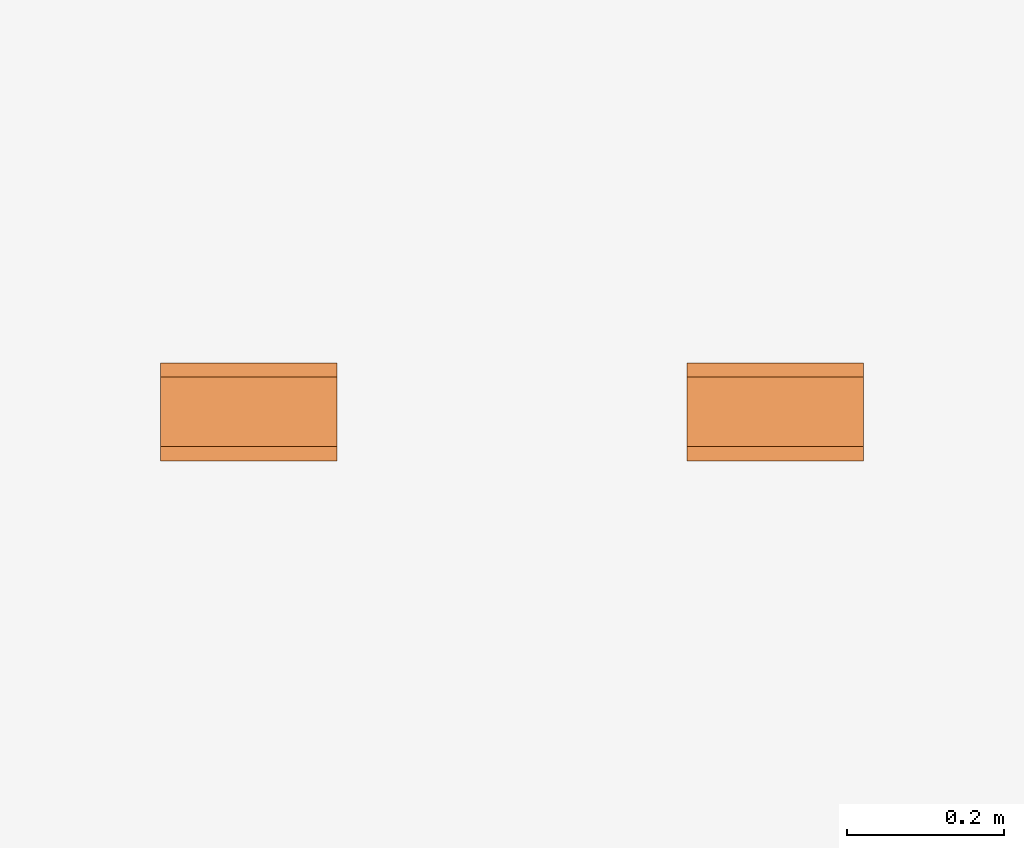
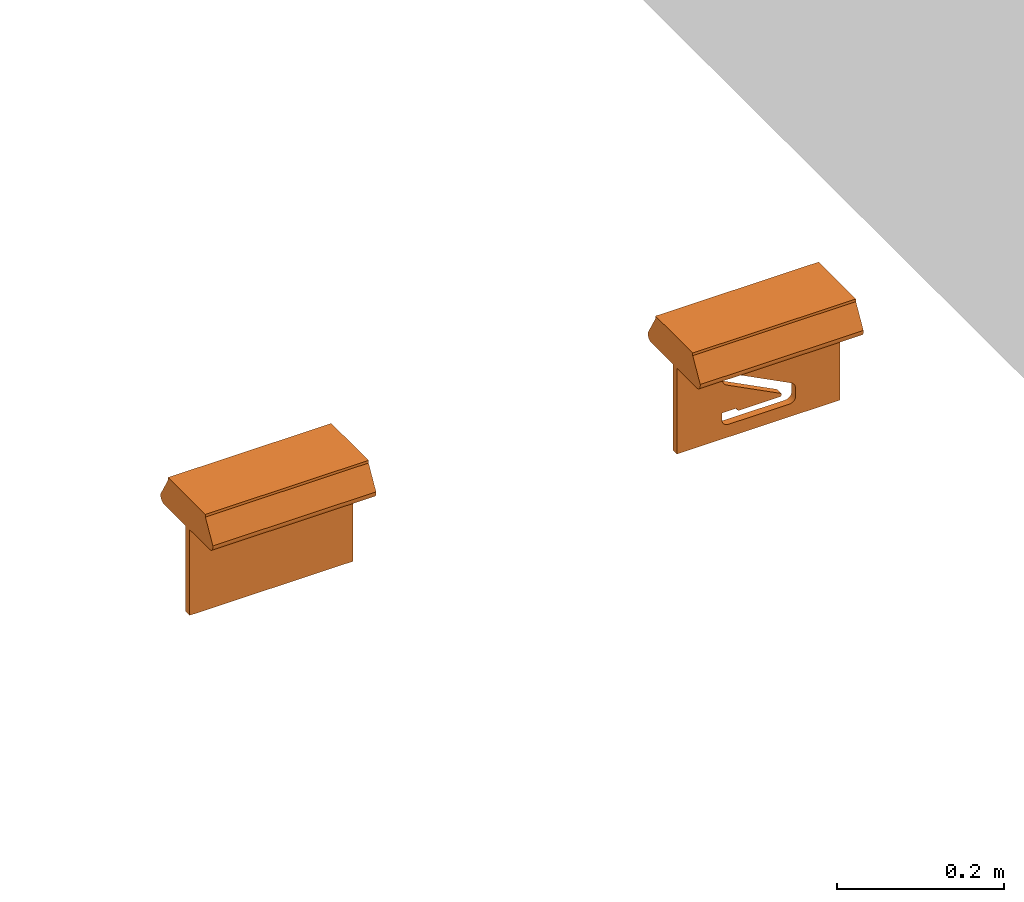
# One storey, part 58 of 197: 2 proxies.
"""IFC2X3 building model written with IfcOpenShell, lengths in metres."""

from ifc_helpers import new_model, entity, si_unit, converted_unit, direction, frame, frame_2d, origin, place, context, subcontext, project, spatial, polyline, circle_curve, parameter, trimmed, segment, composite_curve, circle, outline, extrude, source, transform, mapped, material, material_list, type_object, type_shapes, element, save


model = new_model("IFC2X3")

# Units and contexts
model_context = context("Model", 3, precision=1e-05, world=origin(), true_north=direction((6.123031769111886e-17, 1.0)))
body_context = subcontext(model_context, "Body", "Model", "MODEL_VIEW")
ifc_project = project(units=[si_unit("LENGTHUNIT", "METRE"), converted_unit("PLANEANGLEUNIT", "DEGREE", entity("IfcPlaneAngleMeasure", 0.017453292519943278), si_unit("PLANEANGLEUNIT", "RADIAN"), dimensions=[0, 0, 0, 0, 0, 0, 0]), si_unit("AREAUNIT", "SQUARE_METRE")], contexts=[model_context])

# Site, building, storey
site_placement = place(None, origin())
site = spatial("IfcSite", under=ifc_project, at=site_placement, Name="Default", CompositionType="ELEMENT")
building_placement = place(site_placement, origin())
building = spatial("IfcBuilding", under=site, at=building_placement, CompositionType="ELEMENT")
storey_placement = place(building_placement, origin())
storey = spatial("IfcBuildingStorey", under=building, at=storey_placement, Name="Niveau 0", CompositionType="ELEMENT", Elevation=0.0)

# Proxies
ifc_material_1 = material(Name="BETCE-ENVELOPPE-BLANC")
ifc_material_2 = material(Name="BETCE-ETIQUETTE-VERT 0-193-0")
ifc_material_3 = material(Name="BETCE-VITRE BAES-BLEU")
ifc_material_list_1 = material_list([ifc_material_1, ifc_material_2, ifc_material_3])
building_element_proxy_type_1 = type_object("IfcBuildingElementProxyType", Name="Eclairage de sécurité saillie étanche plafond:GAUCHE", PredefinedType="NOTDEFINED", material=ifc_material_list_1)
shared_shape_1 = source(origin(), body_context, "Body", "SweptSolid", [
    extrude(outline(polyline([(-0.02895906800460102, -0.033302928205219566), (0.012231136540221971, -0.033302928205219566), (0.029966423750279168, -0.012907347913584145), (0.003103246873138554, -0.012907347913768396), (0.03240502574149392, 0.02078969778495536), (0.016088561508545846, 0.03497792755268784), (-0.013213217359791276, 0.0012808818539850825), (-0.016943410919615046, 0.027883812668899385), (-0.03467869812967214, 0.0074882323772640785), (-0.02895906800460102, -0.033302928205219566)])), frame((-0.045353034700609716, -0.004999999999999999, -0.10750000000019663), z_axis=(0.0, 1.0, 0.0), x_axis=(0.6561787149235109, 0.0, 0.7546055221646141)), (0.0, 0.0, 1.0), 0.009999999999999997),
    extrude(outline(composite_curve([segment(trimmed(circle_curve(frame_2d((-0.022195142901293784, -0.014780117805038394), x_axis=(-0.7432901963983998, 0.6689691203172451)), 0.0006000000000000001), [parameter(89.9999999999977)], [parameter(173.97510158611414)], True, "PARAMETER"), True, "CONTINUOUS"), segment(polyline([(-0.021793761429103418, -0.015226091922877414), (-0.011129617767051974, -0.005628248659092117)]), True, "CONTINUOUS"), segment(trimmed(circle_curve(frame_2d((-0.0017573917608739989, -0.016041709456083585), x_axis=(-0.7432901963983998, 0.6689691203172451)), 0.014009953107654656), [parameter(330.5560758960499)], [parameter(353.97510158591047)], True, "PARAMETER"), False, "CONTINUOUS"), segment(polyline([(-0.00621870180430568, -0.002761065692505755), (0.005775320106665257, 0.0017351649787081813)]), True, "CONTINUOUS"), segment(polyline([(0.005775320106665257, 0.0017351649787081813), (-0.0004311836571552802, 0.007321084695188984)]), True, "CONTINUOUS"), segment(polyline([(-0.0004311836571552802, 0.007321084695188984), (-0.011567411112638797, 0.004442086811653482)]), True, "CONTINUOUS"), segment(trimmed(circle_curve(frame_2d((-0.012005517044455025, 0.00712627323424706), x_axis=(-0.7432901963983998, 0.6689691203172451)), 0.0027197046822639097), [parameter(57.327733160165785)], [parameter(141.25747905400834)], True, "PARAMETER"), False, "CONTINUOUS"), segment(trimmed(circle_curve(frame_2d((-0.012005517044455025, 0.00712627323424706), x_axis=(-0.7432901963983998, 0.6689691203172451)), 0.0027197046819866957), [parameter(333.39798722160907)], [parameter(57.32773315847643)], True, "PARAMETER"), False, "CONTINUOUS"), segment(polyline([(-0.012998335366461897, 0.00965828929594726), (-0.00021807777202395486, 0.012998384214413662)]), True, "CONTINUOUS"), segment(trimmed(circle_curve(frame_2d((0.00030725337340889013, 0.007536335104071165), x_axis=(-0.7432901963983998, 0.6689691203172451)), 0.0054872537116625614), [parameter(271.8824185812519)], [parameter(317.4812693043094)], True, "PARAMETER"), False, "CONTINUOUS"), segment(polyline([(0.0038420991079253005, 0.011733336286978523), (0.014901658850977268, 0.0017796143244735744)]), True, "CONTINUOUS"), segment(trimmed(circle_curve(frame_2d((0.006209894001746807, -0.007877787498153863), x_axis=(-0.7432901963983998, 0.6689691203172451)), 0.012992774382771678), [parameter(223.55500193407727)], [parameter(269.9999999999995)], True, "PARAMETER"), False, "CONTINUOUS"), segment(polyline([(0.019197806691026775, -0.00752238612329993), (0.017787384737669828, -0.01891582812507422)]), True, "CONTINUOUS"), segment(polyline([(0.017787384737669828, -0.01891582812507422), (0.022127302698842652, -0.022821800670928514)]), True, "CONTINUOUS"), segment(polyline([(0.022127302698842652, -0.022821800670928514), (0.044393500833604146, 0.001918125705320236)]), True, "CONTINUOUS"), segment(polyline([(0.044393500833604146, 0.001918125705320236), (0.00603048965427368, 0.03644524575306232)]), True, "CONTINUOUS"), segment(polyline([(0.00603048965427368, 0.03644524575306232), (-0.032473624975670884, -0.006336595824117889)]), True, "CONTINUOUS"), segment(polyline([(-0.032473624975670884, -0.006336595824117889), (-0.022596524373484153, -0.015226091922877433)]), True, "CONTINUOUS")], self_intersect=False), holes=[composite_curve([segment(trimmed(circle_curve(frame_2d((0.023878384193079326, 0.0026726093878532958), x_axis=(-0.7432901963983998, 0.6689691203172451)), 0.005405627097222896), [parameter(89.99999999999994)], [parameter(179.99999999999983)], True, "PARAMETER"), False, "CONTINUOUS"), segment(trimmed(circle_curve(frame_2d((0.0238783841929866, 0.002672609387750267), x_axis=(-0.7432901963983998, 0.6689691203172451)), 0.005405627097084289), [parameter(359.99999999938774)], [parameter(89.99999999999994)], True, "PARAMETER"), False, "CONTINUOUS"), segment(trimmed(circle_curve(frame_2d((0.023878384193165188, 0.0026726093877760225), x_axis=(-0.7432901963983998, 0.6689691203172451)), 0.005405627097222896), [parameter(270.00000000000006)], [parameter(359.99999999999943)], True, "PARAMETER"), False, "CONTINUOUS"), segment(trimmed(circle_curve(frame_2d((0.023878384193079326, 0.0026726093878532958), x_axis=(-0.7432901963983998, 0.6689691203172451)), 0.005405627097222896), [parameter(180.00000000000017)], [parameter(269.9999999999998)], True, "PARAMETER"), False, "CONTINUOUS")], self_intersect=False)]), frame((0.04975088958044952, -0.004999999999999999, -0.09879549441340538), z_axis=(0.0, 1.0, 0.0), x_axis=(-0.7432901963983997, 0.0, 0.668969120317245)), (0.0, 0.0, 1.0), 0.009999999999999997),
    extrude(outline(composite_curve([segment(polyline([(-0.03194487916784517, -0.010138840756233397), (0.011174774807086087, -0.010138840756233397)]), True, "CONTINUOUS"), segment(polyline([(0.011174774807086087, -0.010138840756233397), (0.011174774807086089, -0.003797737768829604)]), True, "CONTINUOUS"), segment(trimmed(circle_curve(frame_2d((0.013841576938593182, -0.0037977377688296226), x_axis=(0.0, 1.0)), 0.0026668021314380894), [parameter(39.08958312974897)], [parameter(89.99999999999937)], True, "PARAMETER"), False, "CONTINUOUS"), segment(polyline([(0.012160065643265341, -0.0017278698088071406), (0.02014056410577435, 0.004432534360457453)]), True, "CONTINUOUS"), segment(trimmed(circle_curve(frame_2d((0.01977914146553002, 0.0049007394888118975), x_axis=(0.0, 1.0)), 0.0005914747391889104), [parameter(217.66570843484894)], [parameter(322.33429156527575)], True, "PARAMETER"), True, "CONTINUOUS"), segment(polyline([(0.0201405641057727, 0.0053689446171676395), (0.009450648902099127, 0.010543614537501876)]), True, "CONTINUOUS"), segment(trimmed(circle_curve(frame_2d((0.007662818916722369, 0.006850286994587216), x_axis=(0.0, 1.0)), 0.004103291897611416), [parameter(334.16975689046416)], [parameter(29.199181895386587)], True, "PARAMETER"), True, "CONTINUOUS"), segment(polyline([(0.005661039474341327, 0.010432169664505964), (-0.0260126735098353, -0.0024869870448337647)]), True, "CONTINUOUS"), segment(polyline([(-0.0260126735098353, -0.0024869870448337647), (-0.031944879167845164, -0.00248698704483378)]), True, "CONTINUOUS"), segment(polyline([(-0.031944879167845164, -0.00248698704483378), (-0.03194487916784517, -0.010138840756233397)]), True, "CONTINUOUS")], self_intersect=False)), frame((0.02817564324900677, -0.005, -0.11835202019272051), z_axis=(0.0, 1.0, 0.0), x_axis=(0.0, 0.0, 1.0)), (0.0, 0.0, 1.0), 0.009999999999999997),
    extrude(outline(composite_curve([segment(polyline([(-0.018635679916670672, -0.010044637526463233), (0.012872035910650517, -0.01004463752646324)]), True, "CONTINUOUS"), segment(trimmed(circle_curve(frame_2d((0.013032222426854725, -0.009454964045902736), x_axis=(0.42357253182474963, 0.9058621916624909)), 0.0006110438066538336), [parameter(189.86253455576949)], [parameter(270.0000000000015)], True, "PARAMETER"), True, "CONTINUOUS"), segment(trimmed(circle_curve(frame_2d((0.013032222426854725, -0.009454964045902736), x_axis=(0.42357253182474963, 0.9058621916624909)), 0.0006110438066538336), [parameter(270.0000000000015)], [parameter(350.1374654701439)], True, "PARAMETER"), True, "CONTINUOUS"), segment(polyline([(0.013382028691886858, -0.008953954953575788), (0.0016479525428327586, -0.0007611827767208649)]), True, "CONTINUOUS"), segment(trimmed(circle_curve(frame_2d((0.0035475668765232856, 0.0012940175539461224), x_axis=(0.42357253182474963, 0.9058621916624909)), 0.002798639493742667), [parameter(89.99999999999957)], [parameter(162.31324888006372)], True, "PARAMETER"), False, "CONTINUOUS"), segment(polyline([(0.0010123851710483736, 0.0024794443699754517), (0.008443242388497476, 0.018371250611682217)]), True, "CONTINUOUS"), segment(polyline([(0.008443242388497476, 0.018371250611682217), (-0.00827312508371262, 0.026187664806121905)]), True, "CONTINUOUS"), segment(polyline([(-0.00827312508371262, 0.026187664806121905), (-0.024034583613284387, -0.0075201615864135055)]), True, "CONTINUOUS"), segment(polyline([(-0.024034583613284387, -0.0075201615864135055), (-0.018635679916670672, -0.010044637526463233)]), True, "CONTINUOUS")], self_intersect=False)), frame((0.04943108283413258, -0.004999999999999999, -0.13171021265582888), z_axis=(0.0, 1.0, 0.0), x_axis=(0.42357253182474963, 0.0, 0.9058621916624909)), (0.0, 0.0, 1.0), 0.009999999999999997),
    extrude(outline(polyline([(-0.05249999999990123, -0.10250000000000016), (0.052499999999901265, -0.10250000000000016), (0.052499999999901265, 0.10250000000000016), (-0.05249999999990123, 0.10250000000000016), (-0.05249999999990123, -0.10250000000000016)]), holes=[composite_curve([segment(polyline([(0.04279689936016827, -0.018036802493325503), (0.04279689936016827, -0.025688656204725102)]), True, "CONTINUOUS"), segment(polyline([(0.04279689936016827, -0.025688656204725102), (0.036864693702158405, -0.025688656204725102)]), True, "CONTINUOUS"), segment(polyline([(0.036864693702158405, -0.025688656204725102), (0.005190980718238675, -0.038607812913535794)]), True, "CONTINUOUS"), segment(trimmed(circle_curve(frame_2d((0.0031892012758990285, -0.03502593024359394), x_axis=(0.0, -1.0)), 0.004103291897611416), [parameter(334.1697568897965)], [parameter(29.199181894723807)], True, "PARAMETER"), False, "CONTINUOUS"), segment(polyline([(0.0014013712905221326, -0.038719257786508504), (-0.009288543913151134, -0.03354458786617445)]), True, "CONTINUOUS"), segment(trimmed(circle_curve(frame_2d((-0.008927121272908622, -0.03307638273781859), x_axis=(0.0, -1.0)), 0.0005914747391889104), [parameter(217.66570843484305)], [parameter(322.33429156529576)], True, "PARAMETER"), False, "CONTINUOUS"), segment(polyline([(-0.009288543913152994, -0.03260817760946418), (-0.0013080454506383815, -0.026447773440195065)]), True, "CONTINUOUS"), segment(trimmed(circle_curve(frame_2d((-0.0029895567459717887, -0.0243779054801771), x_axis=(0.0, -1.0)), 0.0026668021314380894), [parameter(39.08958312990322)], [parameter(90.00000000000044)], True, "PARAMETER"), True, "CONTINUOUS"), segment(polyline([(-0.0003227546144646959, -0.024377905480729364), (-0.0003227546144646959, -0.018036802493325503)]), True, "CONTINUOUS"), segment(polyline([(-0.0003227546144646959, -0.018036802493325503), (0.04279689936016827, -0.018036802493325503)]), True, "CONTINUOUS")], self_intersect=False), composite_curve([segment(polyline([(0.04279689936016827, -0.03243846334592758), (0.04279689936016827, -0.06964922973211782)]), True, "CONTINUOUS"), segment(polyline([(0.04279689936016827, -0.06964922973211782), (0.024343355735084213, -0.06964922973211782)]), True, "CONTINUOUS"), segment(polyline([(0.024343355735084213, -0.06964922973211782), (0.024343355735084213, -0.05210593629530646)]), True, "CONTINUOUS"), segment(trimmed(circle_curve(frame_2d((0.02154471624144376, -0.05210593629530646), x_axis=(0.0, -1.0)), 0.002798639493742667), [parameter(90.0000000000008)], [parameter(162.31324887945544)], True, "PARAMETER"), True, "CONTINUOUS"), segment(polyline([(0.022394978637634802, -0.04943958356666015), (0.008295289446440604, -0.046988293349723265)]), True, "CONTINUOUS"), segment(trimmed(circle_curve(frame_2d((0.008399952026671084, -0.04638627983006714), x_axis=(0.0, -1.0)), 0.0006110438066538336), [parameter(269.9999999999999)], [parameter(350.1374654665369)], True, "PARAMETER"), False, "CONTINUOUS"), segment(trimmed(circle_curve(frame_2d((0.008399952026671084, -0.04638627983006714), x_axis=(0.0, -1.0)), 0.0006110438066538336), [parameter(189.86253455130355)], [parameter(269.9999999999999)], True, "PARAMETER"), False, "CONTINUOUS"), segment(polyline([(0.008295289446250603, -0.045784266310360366), (0.03683693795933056, -0.03243846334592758)]), True, "CONTINUOUS"), segment(polyline([(0.03683693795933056, -0.03243846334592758), (0.04279689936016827, -0.03243846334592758)]), True, "CONTINUOUS")], self_intersect=False), composite_curve([segment(polyline([(0.017729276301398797, -0.05636087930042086), (0.017729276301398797, -0.06964922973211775)]), True, "CONTINUOUS"), segment(polyline([(0.017729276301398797, -0.06964922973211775), (-0.039828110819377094, -0.06964922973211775)]), True, "CONTINUOUS"), segment(polyline([(-0.039828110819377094, -0.06964922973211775), (-0.039828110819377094, -0.018036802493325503)]), True, "CONTINUOUS"), segment(polyline([(-0.039828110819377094, -0.018036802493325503), (-0.0065437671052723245, -0.018036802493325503)]), True, "CONTINUOUS"), segment(polyline([(-0.0065437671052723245, -0.018036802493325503), (-0.0065437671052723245, -0.023875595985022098)]), True, "CONTINUOUS"), segment(polyline([(-0.0065437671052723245, -0.023875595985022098), (-0.015955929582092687, -0.030449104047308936)]), True, "CONTINUOUS"), segment(trimmed(circle_curve(frame_2d((-0.007003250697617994, -0.03986513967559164), x_axis=(0.0, -1.0)), 0.012992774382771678), [parameter(223.5550019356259)], [parameter(270.00000000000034)], True, "PARAMETER"), True, "CONTINUOUS"), segment(polyline([(-0.019996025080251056, -0.03986513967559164), (-0.019996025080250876, -0.05474433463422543)]), True, "CONTINUOUS"), segment(trimmed(circle_curve(frame_2d((-0.014511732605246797, -0.05456408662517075), x_axis=(0.0, -1.0)), 0.0054872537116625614), [parameter(271.8824185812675)], [parameter(317.4812693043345)], True, "PARAMETER"), True, "CONTINUOUS"), segment(polyline([(-0.018220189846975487, -0.05860850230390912), (-0.007187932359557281, -0.06587352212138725)]), True, "CONTINUOUS"), segment(trimmed(circle_curve(frame_2d((-0.00597007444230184, -0.06344172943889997), x_axis=(0.0, -1.0)), 0.0027197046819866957), [parameter(333.3979871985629)], [parameter(57.32773315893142)], True, "PARAMETER"), True, "CONTINUOUS"), segment(trimmed(circle_curve(frame_2d((-0.005970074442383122, -0.06344172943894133), x_axis=(0.0, -1.0)), 0.0027197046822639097), [parameter(57.32773315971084)], [parameter(141.25747905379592)], True, "PARAMETER"), True, "CONTINUOUS"), segment(polyline([(-0.004268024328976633, -0.061320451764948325), (-0.01385774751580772, -0.054968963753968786)]), True, "CONTINUOUS"), segment(polyline([(-0.01385774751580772, -0.054968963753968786), (-0.01385774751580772, -0.04661892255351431)]), True, "CONTINUOUS"), segment(polyline([(-0.01385774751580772, -0.04661892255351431), (-0.0024921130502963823, -0.052526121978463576)]), True, "CONTINUOUS"), segment(trimmed(circle_curve(frame_2d((0.004394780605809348, -0.04032573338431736), x_axis=(0.0, -1.0)), 0.014009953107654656), [parameter(330.55607589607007)], [parameter(353.9751015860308)], True, "PARAMETER"), True, "CONTINUOUS"), segment(polyline([(0.0029242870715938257, -0.05425830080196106), (0.01719225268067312, -0.05576419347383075)]), True, "CONTINUOUS"), segment(trimmed(circle_curve(frame_2d((0.01712927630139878, -0.05636087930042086), x_axis=(0.0, -1.0)), 0.0006000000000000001), [parameter(90.00000000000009)], [parameter(173.9751015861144)], True, "PARAMETER"), False, "CONTINUOUS")], self_intersect=False), polyline([(0.0, 0.08948593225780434), (0.031082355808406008, 0.06245779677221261), (0.031082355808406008, 0.03542966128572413), (0.010811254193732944, 0.05305670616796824), (0.010811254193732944, 0.008401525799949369), (-0.010811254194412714, 0.008401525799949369), (-0.010811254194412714, 0.053056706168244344), (-0.031082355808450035, 0.03542966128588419), (-0.031082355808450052, 0.06245779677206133), (0.0, 0.08948593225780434)])]), frame((0.0, -0.005, -0.10750000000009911), z_axis=(0.0, 1.0, 0.0), x_axis=(0.0, 0.0, -1.0)), (0.0, 0.0, 1.0), 0.01),
    extrude(circle(Radius=0.005405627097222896, at=frame_2d((2.8873636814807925e-14, 0.0), x_axis=(1.0, 0.0))), frame((0.0337902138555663, -0.005, -0.08083506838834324), z_axis=(0.0, 1.0, 0.0), x_axis=(1.0, 0.0, 0.0)), (0.0, 0.0, 1.0), 0.01),
    extrude(outline(polyline([(-0.06250000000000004, -0.11175180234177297), (0.062499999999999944, -0.11175180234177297), (0.06249999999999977, -5.459731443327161e-05), (0.0625000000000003, 0.11324819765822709), (-0.06249999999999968, 0.1132481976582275), (-0.06250000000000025, -0.0029381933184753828), (-0.06250000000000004, -0.11175180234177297)]), holes=[polyline([(0.052499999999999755, 0.001302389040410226), (0.05249999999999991, -0.10175180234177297), (-0.05250000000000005, -0.10175180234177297), (-0.05250000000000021, -0.0022597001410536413), (-0.05249999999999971, 0.10324819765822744), (0.05250000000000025, 0.10324819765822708), (0.052499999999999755, 0.001302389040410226)])]), frame((-0.0007481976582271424, -0.005, -0.10750000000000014), z_axis=(0.0, 1.0, 0.0), x_axis=(0.0, 0.0, 1.0)), (0.0, 0.0, 1.0), 0.01),
    extrude(outline(composite_curve([segment(trimmed(circle_curve(frame_2d((-0.001999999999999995, -0.05449999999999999), x_axis=(1.0, 0.0)), 0.008), [parameter(269.9999999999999)], [parameter(0.0)], True, "PARAMETER"), True, "CONTINUOUS"), segment(polyline([(0.006000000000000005, -0.05449999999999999), (0.006000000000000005, 0.054500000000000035)]), True, "CONTINUOUS"), segment(trimmed(circle_curve(frame_2d((-0.001999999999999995, 0.05450000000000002), x_axis=(1.0, 0.0)), 0.008), [parameter(359.99999999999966)], [parameter(89.99999999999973)], True, "PARAMETER"), True, "CONTINUOUS"), segment(polyline([(-0.0019999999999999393, 0.06250000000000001), (-0.00399999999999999, 0.06250000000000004)]), True, "CONTINUOUS"), segment(polyline([(-0.00399999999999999, 0.06250000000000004), (-0.00399999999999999, -0.0625)]), True, "CONTINUOUS"), segment(polyline([(-0.00399999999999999, -0.0625), (-0.001999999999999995, -0.0625)]), True, "CONTINUOUS")], self_intersect=False)), frame((-0.1125, 0.0019999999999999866, -0.039), z_axis=(1.0, 0.0, 0.0), x_axis=(0.0, 0.0, -1.0)), (0.0, 0.0, 1.0), 0.22499999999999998),
    extrude(outline(polyline([(-0.06250000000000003, -0.02205897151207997), (0.06250000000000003, -0.02205897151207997), (0.044499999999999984, 0.00911794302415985), (0.044499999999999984, 0.012941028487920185), (-0.044499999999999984, 0.012941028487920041), (-0.04449999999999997, 0.009117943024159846), (-0.06250000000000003, -0.02205897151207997)])), frame((-0.11249999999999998, 0.002000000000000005, -0.012941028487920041), z_axis=(1.0, 0.0, 0.0), x_axis=(0.0, 1.0, 0.0)), (0.0, 0.0, 1.0), 0.225),
])
type_shapes(building_element_proxy_type_1, [shared_shape_1])
proxy_1_placement = place(storey_placement, frame((-482.27247282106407, 108.51998673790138, 1.4999999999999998)))
element("IfcBuildingElementProxy", 1, at=proxy_1_placement, inside=storey, type_object=building_element_proxy_type_1, material=ifc_material_list_1, Name="Eclairage de sécurité saillie étanche plafond:GAUCHE", ObjectType="Eclairage de sécurité saillie étanche plafond:GAUCHE", context=body_context, shape_type="MappedRepresentation", body=[
    mapped(shared_shape_1, transform((0.0, 0.0, 0.0), scale=1.0)),
])
ifc_material_list_2 = material_list([ifc_material_2, ifc_material_1, ifc_material_3])
building_element_proxy_type_2 = type_object("IfcBuildingElementProxyType", Name="Eclairage de sécurité saillie étanche plafond:GAUCHE/DROITE", PredefinedType="NOTDEFINED", material=ifc_material_list_2)
shared_shape_2 = source(origin(), body_context, "Body", "SweptSolid", [
    extrude(outline(polyline([(-0.05249999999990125, -0.10250000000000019), (0.05249999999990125, -0.10250000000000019), (0.05249999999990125, 0.10250000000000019), (-0.05249999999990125, 0.10250000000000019), (-0.05249999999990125, -0.10250000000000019)]), holes=[composite_curve([segment(trimmed(circle_curve(frame_2d((-0.03544806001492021, 0.041676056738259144), x_axis=(0.0, -1.0)), 0.008677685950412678), [parameter(179.9999999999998)], [parameter(269.9999999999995)], True, "PARAMETER"), False, "CONTINUOUS"), segment(polyline([(-0.03544806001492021, 0.05035374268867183), (-0.024600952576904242, 0.05035374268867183)]), True, "CONTINUOUS"), segment(trimmed(circle_curve(frame_2d((-0.024600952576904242, 0.0382049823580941), x_axis=(0.0, -1.0)), 0.01214876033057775), [parameter(125.70439290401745)], [parameter(179.9999999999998)], True, "PARAMETER"), False, "CONTINUOUS"), segment(polyline([(-0.014735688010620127, 0.045295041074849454), (0.0245331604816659, -0.031263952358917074)]), True, "CONTINUOUS"), segment(trimmed(circle_curve(frame_2d((0.02611047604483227, -0.029068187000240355), x_axis=(0.0, -1.0)), 0.0027035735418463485), [parameter(324.30863793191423)], [parameter(90.0000000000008)], True, "PARAMETER"), True, "CONTINUOUS"), segment(polyline([(0.02881404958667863, -0.029068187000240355), (0.028814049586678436, 0.026056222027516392)]), True, "CONTINUOUS"), segment(trimmed(circle_curve(frame_2d((0.024475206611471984, 0.026056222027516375), x_axis=(0.0, -1.0)), 0.004338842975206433), [parameter(90.00000000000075)], [parameter(180.00000000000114)], True, "PARAMETER"), True, "CONTINUOUS"), segment(polyline([(0.024475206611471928, 0.030395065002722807), (0.024475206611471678, 0.05035374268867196)]), True, "CONTINUOUS"), segment(polyline([(0.024475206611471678, 0.05035374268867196), (0.0353223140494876, 0.05035374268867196)]), True, "CONTINUOUS"), segment(trimmed(circle_curve(frame_2d((0.0353223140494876, 0.04167605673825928), x_axis=(0.0, -1.0)), 0.008677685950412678), [parameter(90.00000000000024)], [parameter(179.99999999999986)], True, "PARAMETER"), False, "CONTINUOUS"), segment(polyline([(0.043999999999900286, 0.041676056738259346), (0.04399999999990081, -0.04247476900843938)]), True, "CONTINUOUS"), segment(trimmed(circle_curve(frame_2d((0.03532231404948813, -0.04247476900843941), x_axis=(0.0, -1.0)), 0.008677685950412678), [parameter(3.5622212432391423e-13)], [parameter(89.99999999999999)], True, "PARAMETER"), False, "CONTINUOUS"), segment(polyline([(0.03532231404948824, -0.05115245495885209), (0.024475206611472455, -0.05115245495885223)]), True, "CONTINUOUS"), segment(trimmed(circle_curve(frame_2d((0.024475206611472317, -0.0390036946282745), x_axis=(0.0, -1.0)), 0.01214876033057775), [parameter(305.7043929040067)], [parameter(3.053332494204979e-13)], True, "PARAMETER"), False, "CONTINUOUS"), segment(polyline([(0.014609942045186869, -0.04609375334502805), (-0.023851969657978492, 0.02889202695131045)]), True, "CONTINUOUS"), segment(trimmed(circle_curve(frame_2d((-0.026249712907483, 0.027662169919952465), x_axis=(0.0, -1.0)), 0.00269008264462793), [parameter(117.15431896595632)], [parameter(270.00000000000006)], True, "PARAMETER"), True, "CONTINUOUS"), segment(polyline([(-0.02893979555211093, 0.027662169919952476), (-0.02893979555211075, -0.026854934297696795)]), True, "CONTINUOUS"), segment(trimmed(circle_curve(frame_2d((-0.02460095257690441, -0.026854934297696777), x_axis=(0.0, -1.0)), 0.004338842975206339), [parameter(270.00000000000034)], [parameter(9.159997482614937e-13)], True, "PARAMETER"), True, "CONTINUOUS"), segment(polyline([(-0.02460095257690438, -0.031193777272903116), (-0.024600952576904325, -0.051152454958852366)]), True, "CONTINUOUS"), segment(polyline([(-0.024600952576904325, -0.051152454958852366), (-0.03544806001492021, -0.051152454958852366)]), True, "CONTINUOUS"), segment(trimmed(circle_curve(frame_2d((-0.03544806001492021, -0.04247476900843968), x_axis=(0.0, -1.0)), 0.008677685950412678), [parameter(269.99999999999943)], [parameter(359.9999999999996)], True, "PARAMETER"), False, "CONTINUOUS"), segment(polyline([(-0.04412574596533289, -0.04247476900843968), (-0.04412574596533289, 0.041676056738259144)]), True, "CONTINUOUS")], self_intersect=False)]), frame((0.0, -0.005, -0.10750000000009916), z_axis=(0.0, 1.0, 0.0), x_axis=(0.0, 0.0, -1.0)), (0.0, 0.0, 1.0), 0.01),
    extrude(outline(polyline([(-0.06250000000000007, -0.11175180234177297), (0.06249999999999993, -0.11175180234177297), (0.06249999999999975, -5.459731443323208e-05), (0.06250000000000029, 0.11324819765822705), (-0.0624999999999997, 0.11324819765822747), (-0.06250000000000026, -0.0029381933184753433), (-0.06250000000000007, -0.11175180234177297)]), holes=[polyline([(0.05249999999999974, 0.0013023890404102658), (0.052499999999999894, -0.10175180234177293), (-0.05250000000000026, -0.10175180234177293), (-0.052500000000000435, -0.002259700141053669), (-0.05249999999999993, 0.10324819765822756), (0.052500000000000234, 0.10324819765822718), (0.05249999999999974, 0.0013023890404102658)])]), frame((-0.0007481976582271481, -0.005, -0.10750000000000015), z_axis=(0.0, 1.0, 0.0), x_axis=(0.0, 0.0, 1.0)), (0.0, 0.0, 1.0), 0.01),
    extrude(outline(composite_curve([segment(trimmed(circle_curve(frame_2d((-0.001999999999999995, -0.05449999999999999), x_axis=(1.0, 0.0)), 0.008), [parameter(269.9999999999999)], [parameter(0.0)], True, "PARAMETER"), True, "CONTINUOUS"), segment(polyline([(0.006000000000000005, -0.05449999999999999), (0.006000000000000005, 0.054500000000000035)]), True, "CONTINUOUS"), segment(trimmed(circle_curve(frame_2d((-0.001999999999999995, 0.05450000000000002), x_axis=(1.0, 0.0)), 0.008), [parameter(359.99999999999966)], [parameter(89.99999999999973)], True, "PARAMETER"), True, "CONTINUOUS"), segment(polyline([(-0.0019999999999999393, 0.06250000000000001), (-0.00399999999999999, 0.06250000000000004)]), True, "CONTINUOUS"), segment(polyline([(-0.00399999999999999, 0.06250000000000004), (-0.00399999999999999, -0.0625)]), True, "CONTINUOUS"), segment(polyline([(-0.00399999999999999, -0.0625), (-0.001999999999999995, -0.0625)]), True, "CONTINUOUS")], self_intersect=False)), frame((-0.1125, 0.0019999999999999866, -0.039), z_axis=(1.0, 0.0, 0.0), x_axis=(0.0, 0.0, -1.0)), (0.0, 0.0, 1.0), 0.22499999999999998),
    extrude(outline(polyline([(-0.06250000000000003, -0.02205897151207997), (0.06250000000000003, -0.02205897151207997), (0.044499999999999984, 0.00911794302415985), (0.044499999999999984, 0.012941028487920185), (-0.044499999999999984, 0.012941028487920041), (-0.04449999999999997, 0.009117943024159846), (-0.06250000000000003, -0.02205897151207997)])), frame((-0.11249999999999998, 0.002000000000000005, -0.012941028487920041), z_axis=(1.0, 0.0, 0.0), x_axis=(0.0, 1.0, 0.0)), (0.0, 0.0, 1.0), 0.225),
])
type_shapes(building_element_proxy_type_2, [shared_shape_2])
proxy_2_placement = place(storey_placement, frame((-481.6004728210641, 108.51998673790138, 1.4999999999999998)))
element("IfcBuildingElementProxy", 2, at=proxy_2_placement, inside=storey, type_object=building_element_proxy_type_2, material=ifc_material_list_2, Name="Eclairage de sécurité saillie étanche plafond:GAUCHE/DROITE", ObjectType="Eclairage de sécurité saillie étanche plafond:GAUCHE/DROITE", context=body_context, shape_type="MappedRepresentation", body=[
    mapped(shared_shape_2, transform((0.0, 0.0, 0.0), scale=1.0)),
])

save(model, "model.ifc")
